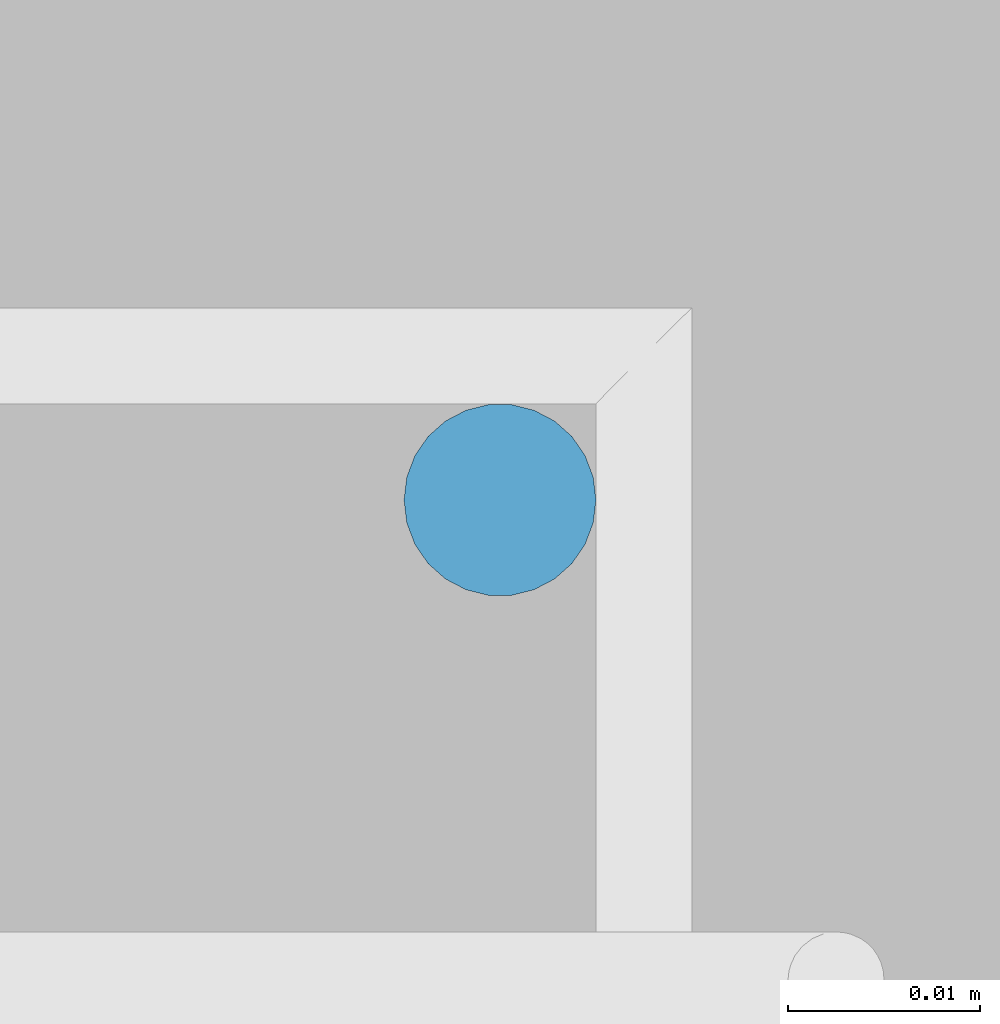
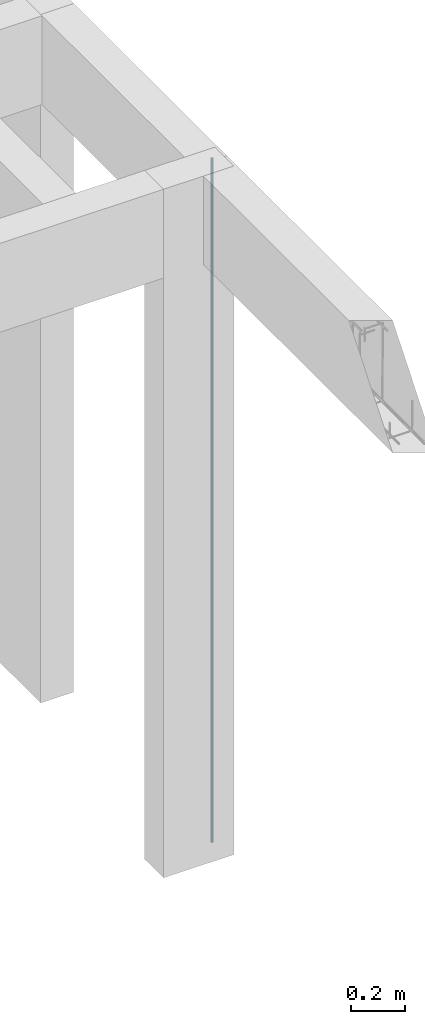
# One storey, part 30 of 236: 1 reinforcing bar.
"""IFC4 building model written with IfcOpenShell, lengths in centimetres."""

from ifc_helpers import new_model, entity, si_unit, derived_unit, frame, origin_with_axes, place, context, project, spatial, element, save


model = new_model("IFC4")

# Units and contexts
model_context = context("Model", 3, precision=1e-05, world=origin_with_axes(), identifier="Body")
ifc_project = project(units=[si_unit("LENGTHUNIT", "METRE", prefix="CENTI"), si_unit("VOLUMEUNIT", "CUBIC_METRE"), si_unit("AREAUNIT", "SQUARE_METRE"), si_unit("POWERUNIT", "WATT"), si_unit("LUMINOUSFLUXUNIT", "LUMEN"), si_unit("ELECTRICCURRENTUNIT", "AMPERE"), si_unit("PRESSUREUNIT", "PASCAL", prefix="KILO"), si_unit("MASSUNIT", "GRAM", prefix="KILO"), si_unit("PLANEANGLEUNIT", "RADIAN"), derived_unit("VOLUMETRICFLOWRATEUNIT", [(si_unit("LENGTHUNIT", "METRE"), 3), (si_unit("TIMEUNIT", "SECOND"), -1)])], contexts=[model_context])

# Site, building, storey
site_placement = place(None, frame((-4000.0, 0.0, 0.0), z_axis=(0.0, 0.0, 1.0), x_axis=(1.0, 0.0, 0.0)))
site = spatial("IfcSite", under=ifc_project, at=site_placement, Name="PADRÃO")
building_placement = place(site_placement, frame((0.0, 0.0, -14.0)))
building = spatial("IfcBuilding", under=site, at=building_placement, Name="CRECHE PRÉ-ESCOLA TIPO 2")
placement_1 = place(building_placement, origin_with_axes())
placement_2 = place(placement_1, frame((0.0, 0.0, 30.0), z_axis=(0.0, 0.0, 1.0), x_axis=(1.0, 0.0, 0.0)))
storey_placement = place(placement_2, frame((0.0, 0.0, 310.0), z_axis=(0.0, 0.0, 1.0), x_axis=(1.0, 0.0, 0.0)))
storey = spatial("IfcBuildingStorey", under=building, at=storey_placement, Name="TERREO", CompositionType="ELEMENT", Elevation=326.0)

# Reinforcing bar
reinforcing_bar_placement = place(storey_placement, frame((1121.72, 1306.5, -2.0), z_axis=(0.0, 0.0, 1.0), x_axis=(1.0, 0.0, 0.0)))
element("IfcReinforcingBar", 1, at=reinforcing_bar_placement, inside=storey, Name="P109 - Longitudinal", BarLength=0.0, CrossSectionArea=7.853981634e-05, NominalDiameter=1.0, PredefinedType="MAIN", context=model_context, shape_type="AdvancedSweptSolid", body=[
    entity("IfcSweptDiskSolid", entity("IfcCompositeCurve", [entity("IfcCompositeCurveSegment", "CONTINUOUS", True, entity("IfcPolyline", [entity("IfcCartesianPoint", [0.0, 0.0, -308.0]), entity("IfcCartesianPoint", [0.0, 0.0, 0.0])]))], False), 0.5),
])

save(model, "model.ifc")
